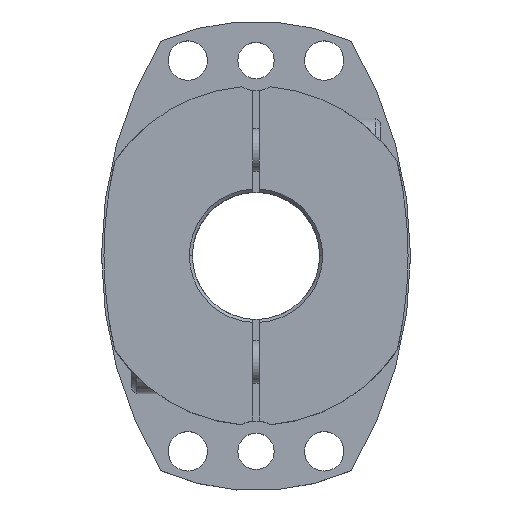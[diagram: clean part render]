
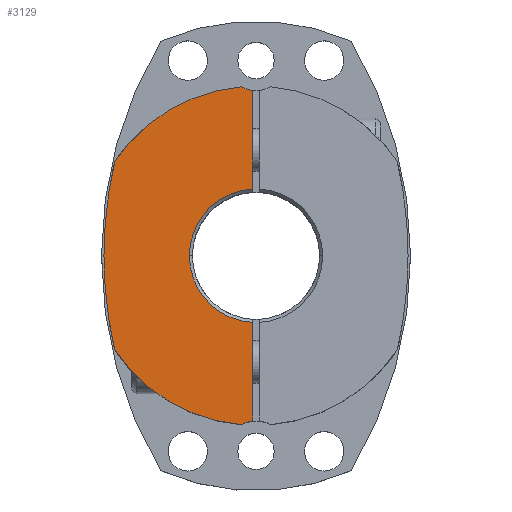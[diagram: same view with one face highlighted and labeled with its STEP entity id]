
A CAD part, top view. The second image highlights one B-rep face of the part: STEP entity #3129.
In plain terms, the highlighted planar face has unit normal (0, 0, 1).
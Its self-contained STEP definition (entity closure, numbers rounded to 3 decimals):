
#414=CARTESIAN_POINT('',(-22.,0.,42.5));
#415=VERTEX_POINT('',#414);
#422=CARTESIAN_POINT('',(-1.,-21.977,42.5));
#423=VERTEX_POINT('',#422);
#424=CARTESIAN_POINT('',(0.,0.,42.5));
#425=DIRECTION('',(0.0,0.0,1.0));
#426=DIRECTION('',(1.0,0.0,0.0));
#427=AXIS2_PLACEMENT_3D('',#424,#425,#426);
#428=CIRCLE('',#427,22.0);
#429=EDGE_CURVE('',#415,#423,#428,.T.);
#936=CARTESIAN_POINT('',(-50.2,0.,42.5));
#937=VERTEX_POINT('',#936);
#946=CARTESIAN_POINT('',(-46.66,30.965,42.5));
#947=VERTEX_POINT('',#946);
#948=CARTESIAN_POINT('',(87.,0.,42.5));
#949=DIRECTION('',(0.0,0.0,-1.0));
#950=DIRECTION('',(1.0,0.0,0.0));
#951=AXIS2_PLACEMENT_3D('',#948,#949,#950);
#952=CIRCLE('',#951,137.2);
#953=EDGE_CURVE('',#937,#947,#952,.T.);
#2266=CARTESIAN_POINT('',(-46.66,-30.965,42.5));
#2267=VERTEX_POINT('',#2266);
#2274=CARTESIAN_POINT('',(87.,0.,42.5));
#2275=DIRECTION('',(0.0,0.0,-1.0));
#2276=DIRECTION('',(1.0,0.0,0.0));
#2277=AXIS2_PLACEMENT_3D('',#2274,#2275,#2276);
#2278=CIRCLE('',#2277,137.2);
#2279=EDGE_CURVE('',#2267,#937,#2278,.T.);
#2595=CARTESIAN_POINT('',(-4.904,55.785,42.5));
#2596=VERTEX_POINT('',#2595);
#2597=CARTESIAN_POINT('',(0.,0.,42.5));
#2598=DIRECTION('',(0.0,0.0,-1.0));
#2599=DIRECTION('',(1.0,0.0,0.0));
#2600=AXIS2_PLACEMENT_3D('',#2597,#2598,#2599);
#2601=CIRCLE('',#2600,56.);
#2602=EDGE_CURVE('',#947,#2596,#2601,.T.);
#2761=CARTESIAN_POINT('',(-1.,54.55,42.5));
#2762=VERTEX_POINT('',#2761);
#2769=CARTESIAN_POINT('',(-1.,21.977,42.5));
#2770=VERTEX_POINT('',#2769);
#2771=CARTESIAN_POINT('',(-1.,21.977,42.5));
#2772=DIRECTION('',(0.0,1.0,0.0));
#2773=VECTOR('',#2772,32.573);
#2774=LINE('',#2771,#2773);
#2775=EDGE_CURVE('',#2770,#2762,#2774,.T.);
#2863=CARTESIAN_POINT('',(-1.,-54.55,42.5));
#2864=VERTEX_POINT('',#2863);
#2865=CARTESIAN_POINT('',(-1.,-54.55,42.5));
#2866=DIRECTION('',(0.0,1.0,0.0));
#2867=VECTOR('',#2866,32.573);
#2868=LINE('',#2865,#2867);
#2869=EDGE_CURVE('',#2864,#423,#2868,.T.);
#2950=CARTESIAN_POINT('',(-4.904,-55.785,42.5));
#2951=VERTEX_POINT('',#2950);
#2952=CARTESIAN_POINT('',(0.,-64.5,42.5));
#2953=DIRECTION('',(0.0,0.0,-1.0));
#2954=DIRECTION('',(1.0,0.0,0.0));
#2955=AXIS2_PLACEMENT_3D('',#2952,#2953,#2954);
#2956=CIRCLE('',#2955,10.0);
#2957=EDGE_CURVE('',#2951,#2864,#2956,.T.);
#3094=CARTESIAN_POINT('',(0.,0.,42.5));
#3095=DIRECTION('',(0.0,0.0,1.0));
#3096=DIRECTION('',(1.0,0.0,0.0));
#3097=AXIS2_PLACEMENT_3D('',#3094,#3095,#3096);
#3098=PLANE('',#3097);
#3099=ORIENTED_EDGE('',*,*,#2869,.T.);
#3100=ORIENTED_EDGE('',*,*,#429,.F.);
#3101=CARTESIAN_POINT('',(0.,0.,42.5));
#3102=DIRECTION('',(0.0,0.0,1.0));
#3103=DIRECTION('',(1.0,0.0,0.0));
#3104=AXIS2_PLACEMENT_3D('',#3101,#3102,#3103);
#3105=CIRCLE('',#3104,22.0);
#3106=EDGE_CURVE('',#2770,#415,#3105,.T.);
#3107=ORIENTED_EDGE('',*,*,#3106,.F.);
#3108=ORIENTED_EDGE('',*,*,#2775,.T.);
#3109=CARTESIAN_POINT('',(0.,64.5,42.5));
#3110=DIRECTION('',(0.0,0.0,-1.0));
#3111=DIRECTION('',(1.0,0.0,0.0));
#3112=AXIS2_PLACEMENT_3D('',#3109,#3110,#3111);
#3113=CIRCLE('',#3112,10.0);
#3114=EDGE_CURVE('',#2762,#2596,#3113,.T.);
#3115=ORIENTED_EDGE('',*,*,#3114,.T.);
#3116=ORIENTED_EDGE('',*,*,#2602,.F.);
#3117=ORIENTED_EDGE('',*,*,#953,.F.);
#3118=ORIENTED_EDGE('',*,*,#2279,.F.);
#3119=CARTESIAN_POINT('',(0.,0.0,42.5));
#3120=DIRECTION('',(0.0,0.0,-1.0));
#3121=DIRECTION('',(1.0,0.0,0.0));
#3122=AXIS2_PLACEMENT_3D('',#3119,#3120,#3121);
#3123=CIRCLE('',#3122,56.);
#3124=EDGE_CURVE('',#2951,#2267,#3123,.T.);
#3125=ORIENTED_EDGE('',*,*,#3124,.F.);
#3126=ORIENTED_EDGE('',*,*,#2957,.T.);
#3127=EDGE_LOOP('',(#3099,#3100,#3107,#3108,#3115,#3116,#3117,#3118,#3125,#3126));
#3128=FACE_OUTER_BOUND('',#3127,.T.);
#3129=ADVANCED_FACE('',(#3128),#3098,.T.);
